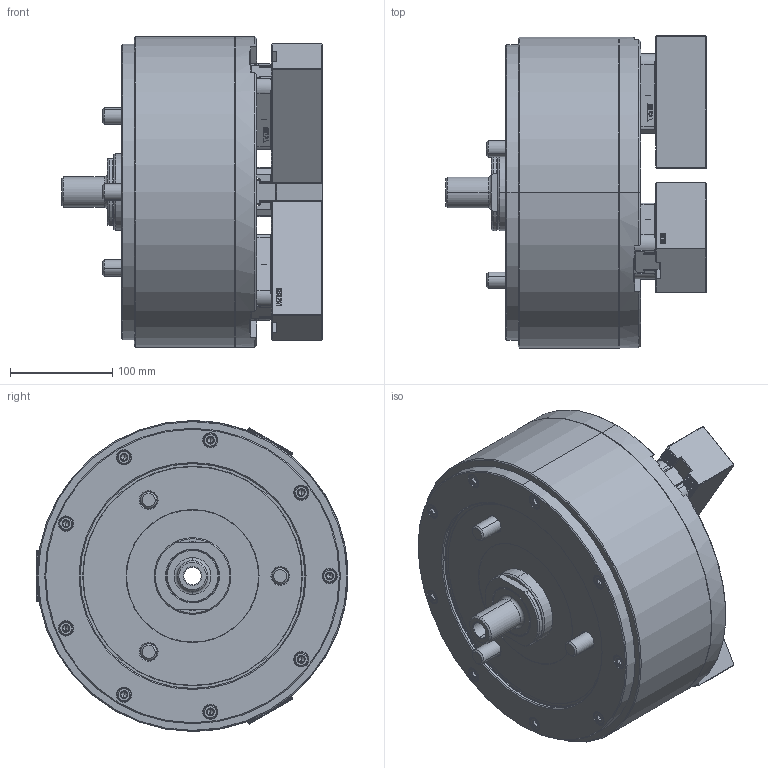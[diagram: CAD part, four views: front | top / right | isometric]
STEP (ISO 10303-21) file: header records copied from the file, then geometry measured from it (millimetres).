
FILE_DESCRIPTION (( 'STEP AP214' ), '1' );
FILE_NAME ('DL212_UC.STEP', '2019-11-29T06:45:17', ( '' ), ( '' ), 'SwSTEP 2.0', 'SolidWorks 2017', '' );
FILE_SCHEMA (( 'AUTOMOTIVE_DESIGN' ));
Length unit declared in the file: millimetre
Products named in the file (5): 結合_OD; 0030114040; 61P458879; 61P851659; DL212_UC
Assembly tree (13 placements, depth 2):
  DL212_UC
    61P851659  x3
    61P458879  x3
    0030114040  x6
    結合_OD
Bounding box: 254.74 x 305.05 x 304 mm (x, y, z)
Volume: 10147057.2 mm3; surface area: 574969.5 mm2
Topology: 13 solids, 13 shells, 6373 faces, 17498 edges, 11373 vertices
Faces by surface type: plane 4461, cylinder 747, bspline 686, cone 451, torus 28
Entity records: 171526 total; most frequent: CARTESIAN_POINT 55989, ORIENTED_EDGE 26028, DIRECTION 20560, EDGE_CURVE 13014, VECTOR 9586, LINE 9586, VERTEX_POINT 8478, AXIS2_PLACEMENT_3D 5487
